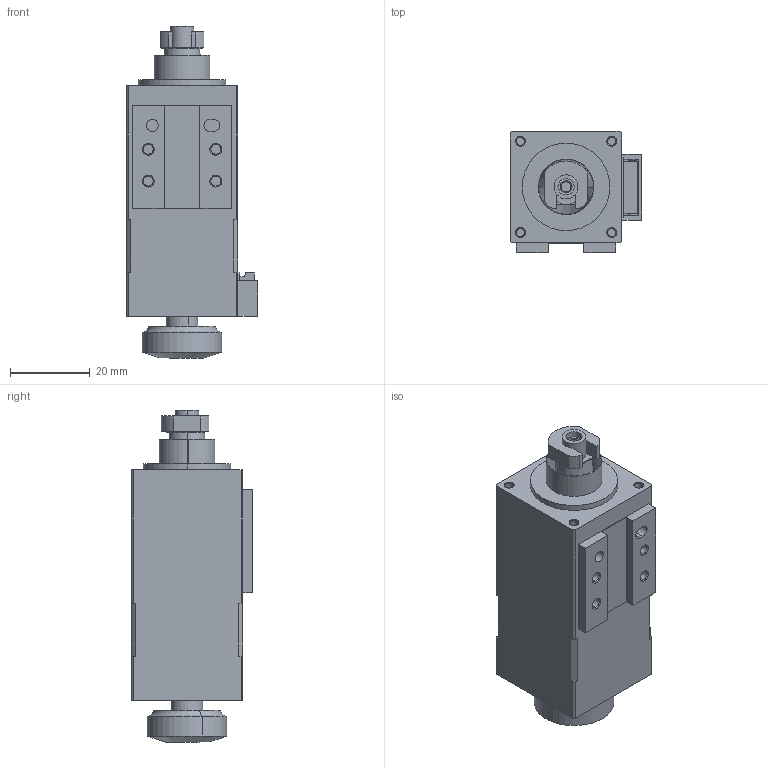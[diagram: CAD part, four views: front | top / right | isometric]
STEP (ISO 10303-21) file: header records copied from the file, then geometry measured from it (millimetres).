
FILE_DESCRIPTION (( 'STEP AP214' ), '1' );
FILE_NAME ('DR28R2.5BC03-P2NKL.STEP', '2017-11-24T00:43:34', ( 'om' ), ( 'Hewlett-Packard Company' ), 'SwSTEP 2.0', 'SolidWorks 2017', '' );
FILE_SCHEMA (( 'AUTOMOTIVE_DESIGN' ));
Length unit declared in the file: millimetre
Products named in the file (3): DR28R2.5BC03-P2NKL_BallScrew_Export; DR28R2.5BC03-P2NKL_BASE_Export; DR28R2.5BC03-P2NKL
Assembly tree (2 placements, depth 2):
  DR28R2.5BC03-P2NKL
    DR28R2.5BC03-P2NKL_BASE_Export
    DR28R2.5BC03-P2NKL_BallScrew_Export
Bounding box: 33 x 30.5 x 83.5 mm (x, y, z)
Volume: 48417.5 mm3; surface area: 16782.8 mm2
Topology: 2 solids, 2 shells, 170 faces, 408 edges, 262 vertices
Faces by surface type: plane 85, cylinder 61, cone 20, torus 2, sphere 2
Entity records: 5114 total; most frequent: CARTESIAN_POINT 919, DIRECTION 902, ORIENTED_EDGE 816, EDGE_CURVE 408, AXIS2_PLACEMENT_3D 325, VERTEX_POINT 262, LINE 252, VECTOR 252
